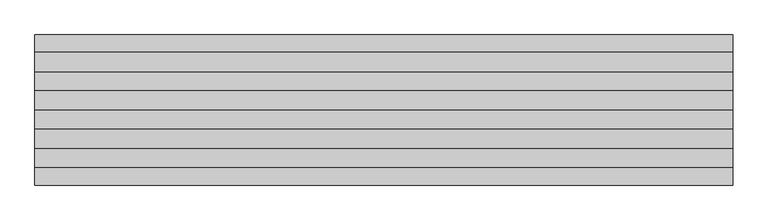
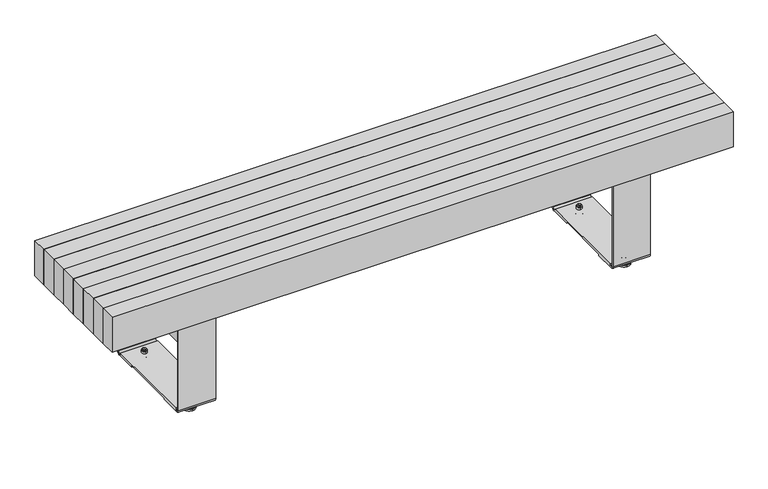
"""IFC4 building model written with IfcOpenShell, lengths in millimetres: furniture geometry, Roros Produkter - Femunden - Bench - 34350 : Roros Produkter - Femunden - Bench - 34350."""

from ifc_helpers import new_model, si_unit, point, frame, frame_2d, origin, place, context, project, spatial, polyline, circle_curve, ellipse_curve, trimmed, segment, composite_curve, outline, extrude, source, transform, mapped, element, save
from ifc_brep_helpers import plane_surface, cylinder_surface, revolved_surface, advanced_brep


def furniture_f9bc95f3(model_context):
    return source(origin(), model_context, "Body", "SolidModel", [
        extrude(outline(composite_curve([segment(trimmed(circle_curve(frame_2d((719.15, 154.0)), 6.0), [point((725.15, 154.0))], [point((719.15, 160.0))], True, "CARTESIAN"), True, "CONTINUOUS"), segment(polyline([(719.15, 160.0), (680.15, 160.0), (680.15, 165.0), (720.15, 165.0)]), True, "CONTINUOUS"), segment(trimmed(circle_curve(frame_2d((720.15, 155.0)), 10.0), [point((720.15, 165.0))], [point((730.15, 155.0))], False, "CARTESIAN"), True, "CONTINUOUS"), segment(polyline([(730.15, 155.0), (730.15, -154.0)]), True, "CONTINUOUS"), segment(trimmed(circle_curve(frame_2d((720.15, -154.0)), 10.0), [point((730.15, -154.0))], [point((720.15, -164.0))], False, "CARTESIAN"), True, "CONTINUOUS"), segment(polyline([(720.15, -164.0), (680.15, -164.0), (680.15, -159.0), (719.15, -159.0)]), True, "CONTINUOUS"), segment(trimmed(circle_curve(frame_2d((719.15, -153.0)), 6.0), [point((719.15, -159.0))], [point((725.15, -153.0))], True, "CARTESIAN"), True, "CONTINUOUS"), segment(polyline([(725.15, -153.0), (725.15, 154.0)]), True, "CONTINUOUS")], self_intersect=False)), frame((0.0, 0.0, 225.6), z_axis=(0.0, 0.0, 1.0), x_axis=(1.0, 0.0, 0.0)), (0.0, 0.0, 1.0), 90.0),
        advanced_brep(
        [(700.0, -119.5, 43.4), (700.0, -129.5, 43.4), (700.0, -133.0, 43.4), (700.0, -116.0, 43.4), (700.0, -119.5, 48.0), (700.0, -129.5, 48.0), (700.0, -124.5, 48.0), (700.0, -104.5, 0.0), (700.0, -144.5, 0.0), (700.0, -124.5, 0.0), (700.0, -104.5, 4.3619998), (700.0, -144.5, 4.3619998), (700.0, -105.4699238, 6.0763344), (700.0, -143.5300761, 6.0763344), (700.0, -112.0, 10.0), (700.0, -137.0, 10.0), (700.0, -115.25, 10.0), (700.0, -133.75, 10.0), (700.0, -115.25, 12.0), (700.0, -133.75, 12.0), (700.0, -117.584004, 12.0), (700.0, -131.415996, 12.0), (700.0, -117.584004, 18.0), (700.0, -131.415996, 18.0), (700.0, -116.0, 18.0), (700.0, -133.0, 18.0), (700.0, -116.0, 25.7), (700.0, -133.0, 25.7), (700.0, -119.5, 25.7), (700.0, -129.5, 25.7), (700.0, -119.5, 35.7), (700.0, -129.5, 35.7), (700.0, -116.0, 35.7), (700.0, -133.0, 35.7)],
        [
            (0, 1, circle_curve(frame((700.0, -124.5, 43.4), z_axis=(0.0, 0.0, -1.0), x_axis=(0.0, -1.0, 0.0)), 5.0)),
            (1, 2),
            (2, 3, circle_curve(frame((700.0, -124.5, 43.4), z_axis=(0.0, 0.0, 1.0), x_axis=(0.0, -1.0, 0.0)), 8.5)),
            (3, 0),
            (1, 0, circle_curve(frame((700.0, -124.5, 43.4), z_axis=(0.0, 0.0, -1.0), x_axis=(0.0, -1.0, 0.0)), 5.0)),
            (3, 2, circle_curve(frame((700.0, -124.5, 43.4), z_axis=(0.0, 0.0, 1.0), x_axis=(0.0, -1.0, 0.0)), 8.5)),
            (4, 5, circle_curve(frame((700.0, -124.5, 48.0), z_axis=(0.0, 0.0, -1.0), x_axis=(0.0, -1.0, 0.0)), 5.0)),
            (5, 1),
            (0, 4),
            (5, 4, circle_curve(frame((700.0, -124.5, 48.0), z_axis=(0.0, 0.0, -1.0), x_axis=(0.0, -1.0, 0.0)), 5.0)),
            (6, 5),
            (4, 6),
            (7, 8, circle_curve(frame((700.0, -124.5, 0.0), z_axis=(0.0, 0.0, -1.0), x_axis=(0.0, -1.0, 0.0)), 20.0)),
            (8, 9),
            (9, 7),
            (8, 7, circle_curve(frame((700.0, -124.5, 0.0), z_axis=(0.0, 0.0, -1.0), x_axis=(0.0, -1.0, 0.0)), 20.0)),
            (10, 11, circle_curve(frame((700.0, -124.5, 4.3619998), z_axis=(0.0, 0.0, -1.0), x_axis=(0.0, -1.0, 0.0)), 20.0)),
            (11, 8),
            (7, 10),
            (11, 10, circle_curve(frame((700.0, -124.5, 4.3619998), z_axis=(0.0, 0.0, -1.0), x_axis=(0.0, -1.0, 0.0)), 20.0)),
            (12, 13, circle_curve(frame((700.0, -124.5, 6.0763344), z_axis=(0.0, 0.0, -1.0), x_axis=(0.0, -1.0, 0.0)), 19.0300761)),
            (13, 11, circle_curve(frame((700.0, -142.5, 4.3619998), z_axis=(1.0, 0.0, 0.0), x_axis=(0.0, 1.0, 0.0)), 2.0)),
            (10, 12, circle_curve(frame((700.0, -106.5, 4.3619998), z_axis=(1.0, 0.0, 0.0), x_axis=(0.0, -1.0, 0.0)), 2.0)),
            (13, 12, circle_curve(frame((700.0, -124.5, 6.0763344), z_axis=(0.0, 0.0, -1.0), x_axis=(0.0, -1.0, 0.0)), 19.0300761)),
            (14, 15, circle_curve(frame((700.0, -124.5, 10.0), z_axis=(0.0, 0.0, -1.0), x_axis=(0.0, -1.0, 0.0)), 12.5)),
            (15, 13),
            (12, 14),
            (15, 14, circle_curve(frame((700.0, -124.5, 10.0), z_axis=(0.0, 0.0, -1.0), x_axis=(0.0, -1.0, 0.0)), 12.5)),
            (16, 17, circle_curve(frame((700.0, -124.5, 10.0), z_axis=(0.0, 0.0, -1.0), x_axis=(0.0, -1.0, 0.0)), 9.25)),
            (17, 15),
            (14, 16),
            (17, 16, circle_curve(frame((700.0, -124.5, 10.0), z_axis=(0.0, 0.0, -1.0), x_axis=(0.0, -1.0, 0.0)), 9.25)),
            (18, 19, circle_curve(frame((700.0, -124.5, 12.0), z_axis=(0.0, 0.0, -1.0), x_axis=(0.0, -1.0, 0.0)), 9.25)),
            (19, 17),
            (16, 18),
            (19, 18, circle_curve(frame((700.0, -124.5, 12.0), z_axis=(0.0, 0.0, -1.0), x_axis=(0.0, -1.0, 0.0)), 9.25)),
            (20, 21, circle_curve(frame((700.0, -124.5, 12.0), z_axis=(0.0, 0.0, -1.0), x_axis=(0.0, -1.0, 0.0)), 6.915996)),
            (21, 19),
            (18, 20),
            (21, 20, circle_curve(frame((700.0, -124.5, 12.0), z_axis=(0.0, 0.0, -1.0), x_axis=(0.0, -1.0, 0.0)), 6.915996)),
            (22, 23, circle_curve(frame((700.0, -124.5, 18.0), z_axis=(0.0, 0.0, -1.0), x_axis=(0.0, -1.0, 0.0)), 6.915996)),
            (23, 21),
            (20, 22),
            (23, 22, circle_curve(frame((700.0, -124.5, 18.0), z_axis=(0.0, 0.0, -1.0), x_axis=(0.0, -1.0, 0.0)), 6.915996)),
            (24, 25, circle_curve(frame((700.0, -124.5, 18.0), z_axis=(0.0, 0.0, -1.0), x_axis=(0.0, -1.0, 0.0)), 8.5)),
            (25, 23),
            (22, 24),
            (25, 24, circle_curve(frame((700.0, -124.5, 18.0), z_axis=(0.0, 0.0, -1.0), x_axis=(0.0, -1.0, 0.0)), 8.5)),
            (26, 27, circle_curve(frame((700.0, -124.5, 25.7), z_axis=(0.0, 0.0, -1.0), x_axis=(0.0, -1.0, 0.0)), 8.5)),
            (27, 25),
            (24, 26),
            (27, 26, circle_curve(frame((700.0, -124.5, 25.7), z_axis=(0.0, 0.0, -1.0), x_axis=(0.0, -1.0, 0.0)), 8.5)),
            (28, 29, circle_curve(frame((700.0, -124.5, 25.7), z_axis=(0.0, 0.0, -1.0), x_axis=(0.0, -1.0, 0.0)), 5.0)),
            (29, 27),
            (26, 28),
            (29, 28, circle_curve(frame((700.0, -124.5, 25.7), z_axis=(0.0, 0.0, -1.0), x_axis=(0.0, -1.0, 0.0)), 5.0)),
            (30, 31, circle_curve(frame((700.0, -124.5, 35.7), z_axis=(0.0, 0.0, -1.0), x_axis=(0.0, -1.0, 0.0)), 5.0)),
            (31, 29),
            (28, 30),
            (31, 30, circle_curve(frame((700.0, -124.5, 35.7), z_axis=(0.0, 0.0, -1.0), x_axis=(0.0, -1.0, 0.0)), 5.0)),
            (32, 33, circle_curve(frame((700.0, -124.5, 35.7), z_axis=(0.0, 0.0, -1.0), x_axis=(0.0, -1.0, 0.0)), 8.5)),
            (33, 31),
            (30, 32),
            (33, 32, circle_curve(frame((700.0, -124.5, 35.7), z_axis=(0.0, 0.0, -1.0), x_axis=(0.0, -1.0, 0.0)), 8.5)),
            (2, 33),
            (32, 3),
        ],
        [
            plane_surface(frame((700.0, -124.5, 43.4), z_axis=(0.0, 0.0, 1.0), x_axis=(0.0, -1.0, 0.0))),
            cylinder_surface(frame((700.0, -124.5, 48.0), z_axis=(0.0, 0.0, 1.0), x_axis=(0.0, -1.0, 0.0)), 5.0),
            plane_surface(frame((700.0, -124.5, 48.0), z_axis=(0.0, 0.0, 1.0), x_axis=(0.0, -1.0, 0.0))),
            plane_surface(frame((700.0, -124.5, 0.0), z_axis=(0.0, 0.0, -1.0), x_axis=(0.0, -1.0, 0.0))),
            cylinder_surface(frame((700.0, -124.5, 48.0), z_axis=(0.0, 0.0, 1.0), x_axis=(0.0, -1.0, 0.0)), 20.0),
            revolved_surface(trimmed(ellipse_curve(frame((700.0, -142.5, 4.3619998), z_axis=(-1.0, 0.0, 0.0), x_axis=(0.0, 1.0, 0.0)), 2.0, 2.0), [point((700.0, -144.5, 4.3619998))], [point((700.0, -143.5300761, 6.0763344))], True, "CARTESIAN"), (700.0, -124.5, 48.0), (0.0, 0.0, 1.0)),
            revolved_surface(polyline([(700.0, -143.5300761, 6.0763344), (700.0, -137.0, 10.0)]), (700.0, -124.5, 48.0), (0.0, 0.0, 1.0)),
            plane_surface(frame((700.0, -124.5, 10.0), z_axis=(0.0, 0.0, 1.0), x_axis=(0.0, -1.0, 0.0))),
            cylinder_surface(frame((700.0, -124.5, 48.0), z_axis=(0.0, 0.0, 1.0), x_axis=(0.0, -1.0, 0.0)), 9.25),
            plane_surface(frame((700.0, -124.5, 12.0), z_axis=(0.0, 0.0, 1.0), x_axis=(0.0, -1.0, 0.0))),
            cylinder_surface(frame((700.0, -124.5, 48.0), z_axis=(0.0, 0.0, 1.0), x_axis=(0.0, -1.0, 0.0)), 6.915996),
            plane_surface(frame((700.0, -124.5, 18.0), z_axis=(0.0, 0.0, -1.0), x_axis=(0.0, -1.0, 0.0))),
            cylinder_surface(frame((700.0, -124.5, 48.0), z_axis=(0.0, 0.0, 1.0), x_axis=(0.0, -1.0, 0.0)), 8.5),
            plane_surface(frame((700.0, -124.5, 25.7), z_axis=(0.0, 0.0, 1.0), x_axis=(0.0, -1.0, 0.0))),
            plane_surface(frame((700.0, -124.5, 35.7), z_axis=(0.0, 0.0, -1.0), x_axis=(0.0, -1.0, 0.0))),
        ],
        [
            (0, [[1, 2, 3, 4]]),
            (0, [[5, -4, 6, -2]]),
            (1, [[7, 8, -1, 9]]),
            (1, [[10, -9, -5, -8]]),
            (2, [[11, -7, 12]]),
            (2, [[-12, -10, -11]]),
            (3, [[13, 14, 15]]),
            (3, [[16, -15, -14]]),
            (4, [[17, 18, -13, 19]]),
            (4, [[20, -19, -16, -18]]),
            (5, [[21, 22, -17, 23]]),
            (5, [[24, -23, -20, -22]]),
            (6, [[25, 26, -21, 27]]),
            (6, [[28, -27, -24, -26]]),
            (7, [[29, 30, -25, 31]]),
            (7, [[32, -31, -28, -30]]),
            (8, [[33, 34, -29, 35]]),
            (8, [[36, -35, -32, -34]]),
            (9, [[37, 38, -33, 39]]),
            (9, [[40, -39, -36, -38]]),
            (10, [[41, 42, -37, 43]]),
            (10, [[44, -43, -40, -42]]),
            (11, [[45, 46, -41, 47]]),
            (11, [[48, -47, -44, -46]]),
            (12, [[49, 50, -45, 51]]),
            (12, [[52, -51, -48, -50]]),
            (13, [[53, 54, -49, 55]]),
            (13, [[56, -55, -52, -54]]),
            (1, [[57, 58, -53, 59]]),
            (1, [[60, -59, -56, -58]]),
            (14, [[61, 62, -57, 63]]),
            (14, [[64, -63, -60, -62]]),
            (12, [[-3, 65, -61, 66]]),
            (12, [[-6, -66, -64, -65]]),
        ],
    ),
        advanced_brep(
        [(700.0, 116.0, 43.4), (700.0, 133.0, 43.4), (700.0, 129.5, 43.4), (700.0, 119.5, 43.4), (700.0, 129.5, 48.0), (700.0, 119.5, 48.0), (700.0, 124.5, 48.0), (700.0, 124.5, 0.0), (700.0, 144.5, 0.0), (700.0, 104.5, 0.0), (700.0, 144.5, 4.3619998), (700.0, 104.5, 4.3619998), (700.0, 143.5300761, 6.0763344), (700.0, 105.4699238, 6.0763344), (700.0, 137.0, 10.0), (700.0, 112.0, 10.0), (700.0, 133.75, 10.0), (700.0, 115.25, 10.0), (700.0, 133.75, 12.0), (700.0, 115.25, 12.0), (700.0, 131.415996, 12.0), (700.0, 117.584004, 12.0), (700.0, 131.415996, 18.0), (700.0, 117.584004, 18.0), (700.0, 133.0, 18.0), (700.0, 116.0, 18.0), (700.0, 133.0, 25.7), (700.0, 116.0, 25.7), (700.0, 129.5, 25.7), (700.0, 119.5, 25.7), (700.0, 129.5, 35.7), (700.0, 119.5, 35.7), (700.0, 133.0, 35.7), (700.0, 116.0, 35.7)],
        [
            (0, 1, circle_curve(frame((700.0, 124.5, 43.4), z_axis=(0.0, 0.0, 1.0), x_axis=(0.0, 1.0, 0.0)), 8.5)),
            (1, 2),
            (2, 3, circle_curve(frame((700.0, 124.5, 43.4), z_axis=(0.0, 0.0, -1.0), x_axis=(0.0, 1.0, 0.0)), 5.0)),
            (3, 0),
            (1, 0, circle_curve(frame((700.0, 124.5, 43.4), z_axis=(0.0, 0.0, 1.0), x_axis=(0.0, 1.0, 0.0)), 8.5)),
            (3, 2, circle_curve(frame((700.0, 124.5, 43.4), z_axis=(0.0, 0.0, -1.0), x_axis=(0.0, 1.0, 0.0)), 5.0)),
            (2, 4),
            (4, 5, circle_curve(frame((700.0, 124.5, 48.0), z_axis=(0.0, 0.0, -1.0), x_axis=(0.0, 1.0, 0.0)), 5.0)),
            (5, 3),
            (5, 4, circle_curve(frame((700.0, 124.5, 48.0), z_axis=(0.0, 0.0, -1.0), x_axis=(0.0, 1.0, 0.0)), 5.0)),
            (4, 6),
            (6, 5),
            (7, 8),
            (8, 9, circle_curve(frame((700.0, 124.5, 0.0), z_axis=(0.0, 0.0, -1.0), x_axis=(0.0, 1.0, 0.0)), 20.0)),
            (9, 7),
            (9, 8, circle_curve(frame((700.0, 124.5, 0.0), z_axis=(0.0, 0.0, -1.0), x_axis=(0.0, 1.0, 0.0)), 20.0)),
            (8, 10),
            (10, 11, circle_curve(frame((700.0, 124.5, 4.3619998), z_axis=(0.0, 0.0, -1.0), x_axis=(0.0, 1.0, 0.0)), 20.0)),
            (11, 9),
            (11, 10, circle_curve(frame((700.0, 124.5, 4.3619998), z_axis=(0.0, 0.0, -1.0), x_axis=(0.0, 1.0, 0.0)), 20.0)),
            (10, 12, circle_curve(frame((700.0, 142.5, 4.3619998), z_axis=(1.0, 0.0, 0.0), x_axis=(0.0, -1.0, 0.0)), 2.0)),
            (12, 13, circle_curve(frame((700.0, 124.5, 6.0763344), z_axis=(0.0, 0.0, -1.0), x_axis=(0.0, 1.0, 0.0)), 19.0300761)),
            (13, 11, circle_curve(frame((700.0, 106.5, 4.3619998), z_axis=(1.0, 0.0, 0.0), x_axis=(0.0, 1.0, 0.0)), 2.0)),
            (13, 12, circle_curve(frame((700.0, 124.5, 6.0763344), z_axis=(0.0, 0.0, -1.0), x_axis=(0.0, 1.0, 0.0)), 19.0300761)),
            (12, 14),
            (14, 15, circle_curve(frame((700.0, 124.5, 10.0), z_axis=(0.0, 0.0, -1.0), x_axis=(0.0, 1.0, 0.0)), 12.5)),
            (15, 13),
            (15, 14, circle_curve(frame((700.0, 124.5, 10.0), z_axis=(0.0, 0.0, -1.0), x_axis=(0.0, 1.0, 0.0)), 12.5)),
            (14, 16),
            (16, 17, circle_curve(frame((700.0, 124.5, 10.0), z_axis=(0.0, 0.0, -1.0), x_axis=(0.0, 1.0, 0.0)), 9.25)),
            (17, 15),
            (17, 16, circle_curve(frame((700.0, 124.5, 10.0), z_axis=(0.0, 0.0, -1.0), x_axis=(0.0, 1.0, 0.0)), 9.25)),
            (16, 18),
            (18, 19, circle_curve(frame((700.0, 124.5, 12.0), z_axis=(0.0, 0.0, -1.0), x_axis=(0.0, 1.0, 0.0)), 9.25)),
            (19, 17),
            (19, 18, circle_curve(frame((700.0, 124.5, 12.0), z_axis=(0.0, 0.0, -1.0), x_axis=(0.0, 1.0, 0.0)), 9.25)),
            (18, 20),
            (20, 21, circle_curve(frame((700.0, 124.5, 12.0), z_axis=(0.0, 0.0, -1.0), x_axis=(0.0, 1.0, 0.0)), 6.915996)),
            (21, 19),
            (21, 20, circle_curve(frame((700.0, 124.5, 12.0), z_axis=(0.0, 0.0, -1.0), x_axis=(0.0, 1.0, 0.0)), 6.915996)),
            (20, 22),
            (22, 23, circle_curve(frame((700.0, 124.5, 18.0), z_axis=(0.0, 0.0, -1.0), x_axis=(0.0, 1.0, 0.0)), 6.915996)),
            (23, 21),
            (23, 22, circle_curve(frame((700.0, 124.5, 18.0), z_axis=(0.0, 0.0, -1.0), x_axis=(0.0, 1.0, 0.0)), 6.915996)),
            (22, 24),
            (24, 25, circle_curve(frame((700.0, 124.5, 18.0), z_axis=(0.0, 0.0, -1.0), x_axis=(0.0, 1.0, 0.0)), 8.5)),
            (25, 23),
            (25, 24, circle_curve(frame((700.0, 124.5, 18.0), z_axis=(0.0, 0.0, -1.0), x_axis=(0.0, 1.0, 0.0)), 8.5)),
            (24, 26),
            (26, 27, circle_curve(frame((700.0, 124.5, 25.7), z_axis=(0.0, 0.0, -1.0), x_axis=(0.0, 1.0, 0.0)), 8.5)),
            (27, 25),
            (27, 26, circle_curve(frame((700.0, 124.5, 25.7), z_axis=(0.0, 0.0, -1.0), x_axis=(0.0, 1.0, 0.0)), 8.5)),
            (26, 28),
            (28, 29, circle_curve(frame((700.0, 124.5, 25.7), z_axis=(0.0, 0.0, -1.0), x_axis=(0.0, 1.0, 0.0)), 5.0)),
            (29, 27),
            (29, 28, circle_curve(frame((700.0, 124.5, 25.7), z_axis=(0.0, 0.0, -1.0), x_axis=(0.0, 1.0, 0.0)), 5.0)),
            (28, 30),
            (30, 31, circle_curve(frame((700.0, 124.5, 35.7), z_axis=(0.0, 0.0, -1.0), x_axis=(0.0, 1.0, 0.0)), 5.0)),
            (31, 29),
            (31, 30, circle_curve(frame((700.0, 124.5, 35.7), z_axis=(0.0, 0.0, -1.0), x_axis=(0.0, 1.0, 0.0)), 5.0)),
            (30, 32),
            (32, 33, circle_curve(frame((700.0, 124.5, 35.7), z_axis=(0.0, 0.0, -1.0), x_axis=(0.0, 1.0, 0.0)), 8.5)),
            (33, 31),
            (33, 32, circle_curve(frame((700.0, 124.5, 35.7), z_axis=(0.0, 0.0, -1.0), x_axis=(0.0, 1.0, 0.0)), 8.5)),
            (32, 1),
            (0, 33),
        ],
        [
            plane_surface(frame((700.0, 124.5, 43.4), z_axis=(0.0, 0.0, 1.0), x_axis=(0.0, 1.0, 0.0))),
            cylinder_surface(frame((700.0, 124.5, 48.0), z_axis=(0.0, 0.0, -1.0), x_axis=(0.0, 1.0, 0.0)), 5.0),
            plane_surface(frame((700.0, 124.5, 48.0), z_axis=(0.0, 0.0, 1.0), x_axis=(0.0, 1.0, 0.0))),
            plane_surface(frame((700.0, 124.5, 0.0), z_axis=(0.0, 0.0, -1.0), x_axis=(0.0, 1.0, 0.0))),
            cylinder_surface(frame((700.0, 124.5, 48.0), z_axis=(0.0, 0.0, -1.0), x_axis=(0.0, 1.0, 0.0)), 20.0),
            revolved_surface(trimmed(ellipse_curve(frame((700.0, 142.5, 4.3619998), z_axis=(-1.0, 0.0, 0.0), x_axis=(0.0, -1.0, 0.0)), 2.0, 2.0), [point((700.0, 143.5300761, 6.0763344))], [point((700.0, 144.5, 4.3619998))], True, "CARTESIAN"), (700.0, 124.5, 48.0), (0.0, 0.0, -1.0)),
            revolved_surface(polyline([(700.0, 137.0, 10.0), (700.0, 143.5300761, 6.0763344)]), (700.0, 124.5, 48.0), (0.0, 0.0, -1.0)),
            plane_surface(frame((700.0, 124.5, 10.0), z_axis=(0.0, 0.0, 1.0), x_axis=(0.0, 1.0, 0.0))),
            cylinder_surface(frame((700.0, 124.5, 48.0), z_axis=(0.0, 0.0, -1.0), x_axis=(0.0, 1.0, 0.0)), 9.25),
            plane_surface(frame((700.0, 124.5, 12.0), z_axis=(0.0, 0.0, 1.0), x_axis=(0.0, 1.0, 0.0))),
            cylinder_surface(frame((700.0, 124.5, 48.0), z_axis=(0.0, 0.0, -1.0), x_axis=(0.0, 1.0, 0.0)), 6.915996),
            plane_surface(frame((700.0, 124.5, 18.0), z_axis=(0.0, 0.0, -1.0), x_axis=(0.0, 1.0, 0.0))),
            cylinder_surface(frame((700.0, 124.5, 48.0), z_axis=(0.0, 0.0, -1.0), x_axis=(0.0, 1.0, 0.0)), 8.5),
            plane_surface(frame((700.0, 124.5, 25.7), z_axis=(0.0, 0.0, 1.0), x_axis=(0.0, 1.0, 0.0))),
            plane_surface(frame((700.0, 124.5, 35.7), z_axis=(0.0, 0.0, -1.0), x_axis=(0.0, 1.0, 0.0))),
        ],
        [
            (0, [[1, 2, 3, 4]]),
            (0, [[5, -4, 6, -2]]),
            (1, [[-3, 7, 8, 9]]),
            (1, [[-6, -9, 10, -7]]),
            (2, [[-8, 11, 12]]),
            (2, [[-10, -12, -11]]),
            (3, [[13, 14, 15]]),
            (3, [[-15, 16, -13]]),
            (4, [[-14, 17, 18, 19]]),
            (4, [[-16, -19, 20, -17]]),
            (5, [[-18, 21, 22, 23]]),
            (5, [[-20, -23, 24, -21]]),
            (6, [[-22, 25, 26, 27]]),
            (6, [[-24, -27, 28, -25]]),
            (7, [[-26, 29, 30, 31]]),
            (7, [[-28, -31, 32, -29]]),
            (8, [[-30, 33, 34, 35]]),
            (8, [[-32, -35, 36, -33]]),
            (9, [[-34, 37, 38, 39]]),
            (9, [[-36, -39, 40, -37]]),
            (10, [[-38, 41, 42, 43]]),
            (10, [[-40, -43, 44, -41]]),
            (11, [[-42, 45, 46, 47]]),
            (11, [[-44, -47, 48, -45]]),
            (12, [[-46, 49, 50, 51]]),
            (12, [[-48, -51, 52, -49]]),
            (13, [[-50, 53, 54, 55]]),
            (13, [[-52, -55, 56, -53]]),
            (1, [[-54, 57, 58, 59]]),
            (1, [[-56, -59, 60, -57]]),
            (14, [[-58, 61, 62, 63]]),
            (14, [[-60, -63, 64, -61]]),
            (12, [[-62, 65, -1, 66]]),
            (12, [[-64, -66, -5, -65]]),
        ],
    ),
        extrude(outline(composite_curve([segment(polyline([(165.0, 441.7), (170.0, 441.7), (170.0, 35.7)]), True, "CONTINUOUS"), segment(trimmed(circle_curve(frame_2d((160.0, 35.7)), 10.0), [point((170.0, 35.7))], [point((160.0, 25.7))], False, "CARTESIAN"), True, "CONTINUOUS"), segment(polyline([(160.0, 25.7), (90.0, 25.7), (90.0, 30.7), (-90.0, 30.7), (-90.0, 25.7), (-160.0, 25.7)]), True, "CONTINUOUS"), segment(trimmed(circle_curve(frame_2d((-160.0, 35.7)), 10.0), [point((-160.0, 25.7))], [point((-170.0, 35.7))], False, "CARTESIAN"), True, "CONTINUOUS"), segment(polyline([(-170.0, 35.7), (-170.0, 441.7), (-165.0, 441.7), (-165.0, 36.7)]), True, "CONTINUOUS"), segment(trimmed(circle_curve(frame_2d((-159.0, 36.7)), 6.0), [point((-165.0, 36.7))], [point((-159.0, 30.7))], True, "CARTESIAN"), True, "CONTINUOUS"), segment(polyline([(-159.0, 30.7), (-154.0, 30.7), (-154.0, 35.7), (154.0, 35.7), (154.0, 30.7), (159.0, 30.7)]), True, "CONTINUOUS"), segment(trimmed(circle_curve(frame_2d((159.0, 36.7)), 6.0), [point((159.0, 30.7))], [point((165.0, 36.7))], True, "CARTESIAN"), True, "CONTINUOUS"), segment(polyline([(165.0, 36.7), (165.0, 441.7)]), True, "CONTINUOUS")], self_intersect=False)), frame((640.0, 0.0, 0.0), z_axis=(1.0, 0.0, 0.0), x_axis=(0.0, 1.0, 0.0)), (0.0, 0.0, 1.0), 120.0),
        extrude(outline(composite_curve([segment(polyline([(-725.15, 154.0), (-725.15, -153.0)]), True, "CONTINUOUS"), segment(trimmed(circle_curve(frame_2d((-719.15, -153.0)), 6.0), [point((-725.15, -153.0))], [point((-719.15, -159.0))], True, "CARTESIAN"), True, "CONTINUOUS"), segment(polyline([(-719.15, -159.0), (-680.15, -159.0), (-680.15, -164.0), (-720.15, -164.0)]), True, "CONTINUOUS"), segment(trimmed(circle_curve(frame_2d((-720.15, -154.0)), 10.0), [point((-720.15, -164.0))], [point((-730.15, -154.0))], False, "CARTESIAN"), True, "CONTINUOUS"), segment(polyline([(-730.15, -154.0), (-730.15, 155.0)]), True, "CONTINUOUS"), segment(trimmed(circle_curve(frame_2d((-720.15, 155.0)), 10.0), [point((-730.15, 155.0))], [point((-720.15, 165.0))], False, "CARTESIAN"), True, "CONTINUOUS"), segment(polyline([(-720.15, 165.0), (-680.15, 165.0), (-680.15, 160.0), (-719.15, 160.0)]), True, "CONTINUOUS"), segment(trimmed(circle_curve(frame_2d((-719.15, 154.0)), 6.0), [point((-719.15, 160.0))], [point((-725.15, 154.0))], True, "CARTESIAN"), True, "CONTINUOUS")], self_intersect=False)), frame((0.0, 0.0, 225.6), z_axis=(0.0, 0.0, 1.0), x_axis=(1.0, 0.0, 0.0)), (0.0, 0.0, 1.0), 90.0),
        advanced_brep(
        [(-700.0, -116.0, 43.4), (-700.0, -133.0, 43.4), (-700.0, -129.5, 43.4), (-700.0, -119.5, 43.4), (-700.0, -129.5, 48.0), (-700.0, -119.5, 48.0), (-700.0, -124.5, 48.0), (-700.0, -124.5, 0.0), (-700.0, -144.5, 0.0), (-700.0, -104.5, 0.0), (-700.0, -144.5, 4.3619998), (-700.0, -104.5, 4.3619998), (-700.0, -143.5300761, 6.0763344), (-700.0, -105.4699238, 6.0763344), (-700.0, -137.0, 10.0), (-700.0, -112.0, 10.0), (-700.0, -133.75, 10.0), (-700.0, -115.25, 10.0), (-700.0, -133.75, 12.0), (-700.0, -115.25, 12.0), (-700.0, -131.415996, 12.0), (-700.0, -117.584004, 12.0), (-700.0, -131.415996, 18.0), (-700.0, -117.584004, 18.0), (-700.0, -133.0, 18.0), (-700.0, -116.0, 18.0), (-700.0, -133.0, 25.7), (-700.0, -116.0, 25.7), (-700.0, -129.5, 25.7), (-700.0, -119.5, 25.7), (-700.0, -129.5, 35.7), (-700.0, -119.5, 35.7), (-700.0, -133.0, 35.7), (-700.0, -116.0, 35.7)],
        [
            (0, 1, circle_curve(frame((-700.0, -124.5, 43.4), z_axis=(0.0, 0.0, 1.0), x_axis=(0.0, -1.0, 0.0)), 8.5)),
            (1, 2),
            (2, 3, circle_curve(frame((-700.0, -124.5, 43.4), z_axis=(0.0, 0.0, -1.0), x_axis=(0.0, -1.0, 0.0)), 5.0)),
            (3, 0),
            (1, 0, circle_curve(frame((-700.0, -124.5, 43.4), z_axis=(0.0, 0.0, 1.0), x_axis=(0.0, -1.0, 0.0)), 8.5)),
            (3, 2, circle_curve(frame((-700.0, -124.5, 43.4), z_axis=(0.0, 0.0, -1.0), x_axis=(0.0, -1.0, 0.0)), 5.0)),
            (2, 4),
            (4, 5, circle_curve(frame((-700.0, -124.5, 48.0), z_axis=(0.0, 0.0, -1.0), x_axis=(0.0, -1.0, 0.0)), 5.0)),
            (5, 3),
            (5, 4, circle_curve(frame((-700.0, -124.5, 48.0), z_axis=(0.0, 0.0, -1.0), x_axis=(0.0, -1.0, 0.0)), 5.0)),
            (4, 6),
            (6, 5),
            (7, 8),
            (8, 9, circle_curve(frame((-700.0, -124.5, 0.0), z_axis=(0.0, 0.0, -1.0), x_axis=(0.0, -1.0, 0.0)), 20.0)),
            (9, 7),
            (9, 8, circle_curve(frame((-700.0, -124.5, 0.0), z_axis=(0.0, 0.0, -1.0), x_axis=(0.0, -1.0, 0.0)), 20.0)),
            (8, 10),
            (10, 11, circle_curve(frame((-700.0, -124.5, 4.3619998), z_axis=(0.0, 0.0, -1.0), x_axis=(0.0, -1.0, 0.0)), 20.0)),
            (11, 9),
            (11, 10, circle_curve(frame((-700.0, -124.5, 4.3619998), z_axis=(0.0, 0.0, -1.0), x_axis=(0.0, -1.0, 0.0)), 20.0)),
            (10, 12, circle_curve(frame((-700.0, -142.5, 4.3619998), z_axis=(-1.0, 0.0, 0.0), x_axis=(0.0, 1.0, 0.0)), 2.0)),
            (12, 13, circle_curve(frame((-700.0, -124.5, 6.0763344), z_axis=(0.0, 0.0, -1.0), x_axis=(0.0, -1.0, 0.0)), 19.0300761)),
            (13, 11, circle_curve(frame((-700.0, -106.5, 4.3619998), z_axis=(-1.0, 0.0, 0.0), x_axis=(0.0, -1.0, 0.0)), 2.0)),
            (13, 12, circle_curve(frame((-700.0, -124.5, 6.0763344), z_axis=(0.0, 0.0, -1.0), x_axis=(0.0, -1.0, 0.0)), 19.0300761)),
            (12, 14),
            (14, 15, circle_curve(frame((-700.0, -124.5, 10.0), z_axis=(0.0, 0.0, -1.0), x_axis=(0.0, -1.0, 0.0)), 12.5)),
            (15, 13),
            (15, 14, circle_curve(frame((-700.0, -124.5, 10.0), z_axis=(0.0, 0.0, -1.0), x_axis=(0.0, -1.0, 0.0)), 12.5)),
            (14, 16),
            (16, 17, circle_curve(frame((-700.0, -124.5, 10.0), z_axis=(0.0, 0.0, -1.0), x_axis=(0.0, -1.0, 0.0)), 9.25)),
            (17, 15),
            (17, 16, circle_curve(frame((-700.0, -124.5, 10.0), z_axis=(0.0, 0.0, -1.0), x_axis=(0.0, -1.0, 0.0)), 9.25)),
            (16, 18),
            (18, 19, circle_curve(frame((-700.0, -124.5, 12.0), z_axis=(0.0, 0.0, -1.0), x_axis=(0.0, -1.0, 0.0)), 9.25)),
            (19, 17),
            (19, 18, circle_curve(frame((-700.0, -124.5, 12.0), z_axis=(0.0, 0.0, -1.0), x_axis=(0.0, -1.0, 0.0)), 9.25)),
            (18, 20),
            (20, 21, circle_curve(frame((-700.0, -124.5, 12.0), z_axis=(0.0, 0.0, -1.0), x_axis=(0.0, -1.0, 0.0)), 6.915996)),
            (21, 19),
            (21, 20, circle_curve(frame((-700.0, -124.5, 12.0), z_axis=(0.0, 0.0, -1.0), x_axis=(0.0, -1.0, 0.0)), 6.915996)),
            (20, 22),
            (22, 23, circle_curve(frame((-700.0, -124.5, 18.0), z_axis=(0.0, 0.0, -1.0), x_axis=(0.0, -1.0, 0.0)), 6.915996)),
            (23, 21),
            (23, 22, circle_curve(frame((-700.0, -124.5, 18.0), z_axis=(0.0, 0.0, -1.0), x_axis=(0.0, -1.0, 0.0)), 6.915996)),
            (22, 24),
            (24, 25, circle_curve(frame((-700.0, -124.5, 18.0), z_axis=(0.0, 0.0, -1.0), x_axis=(0.0, -1.0, 0.0)), 8.5)),
            (25, 23),
            (25, 24, circle_curve(frame((-700.0, -124.5, 18.0), z_axis=(0.0, 0.0, -1.0), x_axis=(0.0, -1.0, 0.0)), 8.5)),
            (24, 26),
            (26, 27, circle_curve(frame((-700.0, -124.5, 25.7), z_axis=(0.0, 0.0, -1.0), x_axis=(0.0, -1.0, 0.0)), 8.5)),
            (27, 25),
            (27, 26, circle_curve(frame((-700.0, -124.5, 25.7), z_axis=(0.0, 0.0, -1.0), x_axis=(0.0, -1.0, 0.0)), 8.5)),
            (26, 28),
            (28, 29, circle_curve(frame((-700.0, -124.5, 25.7), z_axis=(0.0, 0.0, -1.0), x_axis=(0.0, -1.0, 0.0)), 5.0)),
            (29, 27),
            (29, 28, circle_curve(frame((-700.0, -124.5, 25.7), z_axis=(0.0, 0.0, -1.0), x_axis=(0.0, -1.0, 0.0)), 5.0)),
            (28, 30),
            (30, 31, circle_curve(frame((-700.0, -124.5, 35.7), z_axis=(0.0, 0.0, -1.0), x_axis=(0.0, -1.0, 0.0)), 5.0)),
            (31, 29),
            (31, 30, circle_curve(frame((-700.0, -124.5, 35.7), z_axis=(0.0, 0.0, -1.0), x_axis=(0.0, -1.0, 0.0)), 5.0)),
            (30, 32),
            (32, 33, circle_curve(frame((-700.0, -124.5, 35.7), z_axis=(0.0, 0.0, -1.0), x_axis=(0.0, -1.0, 0.0)), 8.5)),
            (33, 31),
            (33, 32, circle_curve(frame((-700.0, -124.5, 35.7), z_axis=(0.0, 0.0, -1.0), x_axis=(0.0, -1.0, 0.0)), 8.5)),
            (32, 1),
            (0, 33),
        ],
        [
            plane_surface(frame((-700.0, -124.5, 43.4), z_axis=(0.0, 0.0, 1.0), x_axis=(0.0, -1.0, 0.0))),
            cylinder_surface(frame((-700.0, -124.5, 48.0), z_axis=(0.0, 0.0, -1.0), x_axis=(0.0, -1.0, 0.0)), 5.0),
            plane_surface(frame((-700.0, -124.5, 48.0), z_axis=(0.0, 0.0, 1.0), x_axis=(0.0, -1.0, 0.0))),
            plane_surface(frame((-700.0, -124.5, 0.0), z_axis=(0.0, 0.0, -1.0), x_axis=(0.0, -1.0, 0.0))),
            cylinder_surface(frame((-700.0, -124.5, 48.0), z_axis=(0.0, 0.0, -1.0), x_axis=(0.0, -1.0, 0.0)), 20.0),
            revolved_surface(trimmed(ellipse_curve(frame((-700.0, -142.5, 4.3619998), z_axis=(1.0, 0.0, 0.0), x_axis=(0.0, 1.0, 0.0)), 2.0, 2.0), [point((-700.0, -143.5300761, 6.0763344))], [point((-700.0, -144.5, 4.3619998))], True, "CARTESIAN"), (-700.0, -124.5, 48.0), (0.0, 0.0, -1.0)),
            revolved_surface(polyline([(-700.0, -137.0, 10.0), (-700.0, -143.5300761, 6.0763344)]), (-700.0, -124.5, 48.0), (0.0, 0.0, -1.0)),
            plane_surface(frame((-700.0, -124.5, 10.0), z_axis=(0.0, 0.0, 1.0), x_axis=(0.0, -1.0, 0.0))),
            cylinder_surface(frame((-700.0, -124.5, 48.0), z_axis=(0.0, 0.0, -1.0), x_axis=(0.0, -1.0, 0.0)), 9.25),
            plane_surface(frame((-700.0, -124.5, 12.0), z_axis=(0.0, 0.0, 1.0), x_axis=(0.0, -1.0, 0.0))),
            cylinder_surface(frame((-700.0, -124.5, 48.0), z_axis=(0.0, 0.0, -1.0), x_axis=(0.0, -1.0, 0.0)), 6.915996),
            plane_surface(frame((-700.0, -124.5, 18.0), z_axis=(0.0, 0.0, -1.0), x_axis=(0.0, -1.0, 0.0))),
            cylinder_surface(frame((-700.0, -124.5, 48.0), z_axis=(0.0, 0.0, -1.0), x_axis=(0.0, -1.0, 0.0)), 8.5),
            plane_surface(frame((-700.0, -124.5, 25.7), z_axis=(0.0, 0.0, 1.0), x_axis=(0.0, -1.0, 0.0))),
            plane_surface(frame((-700.0, -124.5, 35.7), z_axis=(0.0, 0.0, -1.0), x_axis=(0.0, -1.0, 0.0))),
        ],
        [
            (0, [[1, 2, 3, 4]]),
            (0, [[5, -4, 6, -2]]),
            (1, [[-3, 7, 8, 9]]),
            (1, [[-6, -9, 10, -7]]),
            (2, [[-8, 11, 12]]),
            (2, [[-10, -12, -11]]),
            (3, [[13, 14, 15]]),
            (3, [[-15, 16, -13]]),
            (4, [[-14, 17, 18, 19]]),
            (4, [[-16, -19, 20, -17]]),
            (5, [[-18, 21, 22, 23]]),
            (5, [[-20, -23, 24, -21]]),
            (6, [[-22, 25, 26, 27]]),
            (6, [[-24, -27, 28, -25]]),
            (7, [[-26, 29, 30, 31]]),
            (7, [[-28, -31, 32, -29]]),
            (8, [[-30, 33, 34, 35]]),
            (8, [[-32, -35, 36, -33]]),
            (9, [[-34, 37, 38, 39]]),
            (9, [[-36, -39, 40, -37]]),
            (10, [[-38, 41, 42, 43]]),
            (10, [[-40, -43, 44, -41]]),
            (11, [[-42, 45, 46, 47]]),
            (11, [[-44, -47, 48, -45]]),
            (12, [[-46, 49, 50, 51]]),
            (12, [[-48, -51, 52, -49]]),
            (13, [[-50, 53, 54, 55]]),
            (13, [[-52, -55, 56, -53]]),
            (1, [[-54, 57, 58, 59]]),
            (1, [[-56, -59, 60, -57]]),
            (14, [[-58, 61, 62, 63]]),
            (14, [[-60, -63, 64, -61]]),
            (12, [[-62, 65, -1, 66]]),
            (12, [[-64, -66, -5, -65]]),
        ],
    ),
        advanced_brep(
        [(-700.0, 119.5, 43.4), (-700.0, 129.5, 43.4), (-700.0, 133.0, 43.4), (-700.0, 116.0, 43.4), (-700.0, 119.5, 48.0), (-700.0, 129.5, 48.0), (-700.0, 124.5, 48.0), (-700.0, 104.5, 0.0), (-700.0, 144.5, 0.0), (-700.0, 124.5, 0.0), (-700.0, 104.5, 4.3619998), (-700.0, 144.5, 4.3619998), (-700.0, 105.4699238, 6.0763344), (-700.0, 143.5300761, 6.0763344), (-700.0, 112.0, 10.0), (-700.0, 137.0, 10.0), (-700.0, 115.25, 10.0), (-700.0, 133.75, 10.0), (-700.0, 115.25, 12.0), (-700.0, 133.75, 12.0), (-700.0, 117.584004, 12.0), (-700.0, 131.415996, 12.0), (-700.0, 117.584004, 18.0), (-700.0, 131.415996, 18.0), (-700.0, 116.0, 18.0), (-700.0, 133.0, 18.0), (-700.0, 116.0, 25.7), (-700.0, 133.0, 25.7), (-700.0, 119.5, 25.7), (-700.0, 129.5, 25.7), (-700.0, 119.5, 35.7), (-700.0, 129.5, 35.7), (-700.0, 116.0, 35.7), (-700.0, 133.0, 35.7)],
        [
            (0, 1, circle_curve(frame((-700.0, 124.5, 43.4), z_axis=(0.0, 0.0, -1.0), x_axis=(0.0, 1.0, 0.0)), 5.0)),
            (1, 2),
            (2, 3, circle_curve(frame((-700.0, 124.5, 43.4), z_axis=(0.0, 0.0, 1.0), x_axis=(0.0, 1.0, 0.0)), 8.5)),
            (3, 0),
            (1, 0, circle_curve(frame((-700.0, 124.5, 43.4), z_axis=(0.0, 0.0, -1.0), x_axis=(0.0, 1.0, 0.0)), 5.0)),
            (3, 2, circle_curve(frame((-700.0, 124.5, 43.4), z_axis=(0.0, 0.0, 1.0), x_axis=(0.0, 1.0, 0.0)), 8.5)),
            (4, 5, circle_curve(frame((-700.0, 124.5, 48.0), z_axis=(0.0, 0.0, -1.0), x_axis=(0.0, 1.0, 0.0)), 5.0)),
            (5, 1),
            (0, 4),
            (5, 4, circle_curve(frame((-700.0, 124.5, 48.0), z_axis=(0.0, 0.0, -1.0), x_axis=(0.0, 1.0, 0.0)), 5.0)),
            (6, 5),
            (4, 6),
            (7, 8, circle_curve(frame((-700.0, 124.5, 0.0), z_axis=(0.0, 0.0, -1.0), x_axis=(0.0, 1.0, 0.0)), 20.0)),
            (8, 9),
            (9, 7),
            (8, 7, circle_curve(frame((-700.0, 124.5, 0.0), z_axis=(0.0, 0.0, -1.0), x_axis=(0.0, 1.0, 0.0)), 20.0)),
            (10, 11, circle_curve(frame((-700.0, 124.5, 4.3619998), z_axis=(0.0, 0.0, -1.0), x_axis=(0.0, 1.0, 0.0)), 20.0)),
            (11, 8),
            (7, 10),
            (11, 10, circle_curve(frame((-700.0, 124.5, 4.3619998), z_axis=(0.0, 0.0, -1.0), x_axis=(0.0, 1.0, 0.0)), 20.0)),
            (12, 13, circle_curve(frame((-700.0, 124.5, 6.0763344), z_axis=(0.0, 0.0, -1.0), x_axis=(0.0, 1.0, 0.0)), 19.0300761)),
            (13, 11, circle_curve(frame((-700.0, 142.5, 4.3619998), z_axis=(-1.0, 0.0, 0.0), x_axis=(0.0, -1.0, 0.0)), 2.0)),
            (10, 12, circle_curve(frame((-700.0, 106.5, 4.3619998), z_axis=(-1.0, 0.0, 0.0), x_axis=(0.0, 1.0, 0.0)), 2.0)),
            (13, 12, circle_curve(frame((-700.0, 124.5, 6.0763344), z_axis=(0.0, 0.0, -1.0), x_axis=(0.0, 1.0, 0.0)), 19.0300761)),
            (14, 15, circle_curve(frame((-700.0, 124.5, 10.0), z_axis=(0.0, 0.0, -1.0), x_axis=(0.0, 1.0, 0.0)), 12.5)),
            (15, 13),
            (12, 14),
            (15, 14, circle_curve(frame((-700.0, 124.5, 10.0), z_axis=(0.0, 0.0, -1.0), x_axis=(0.0, 1.0, 0.0)), 12.5)),
            (16, 17, circle_curve(frame((-700.0, 124.5, 10.0), z_axis=(0.0, 0.0, -1.0), x_axis=(0.0, 1.0, 0.0)), 9.25)),
            (17, 15),
            (14, 16),
            (17, 16, circle_curve(frame((-700.0, 124.5, 10.0), z_axis=(0.0, 0.0, -1.0), x_axis=(0.0, 1.0, 0.0)), 9.25)),
            (18, 19, circle_curve(frame((-700.0, 124.5, 12.0), z_axis=(0.0, 0.0, -1.0), x_axis=(0.0, 1.0, 0.0)), 9.25)),
            (19, 17),
            (16, 18),
            (19, 18, circle_curve(frame((-700.0, 124.5, 12.0), z_axis=(0.0, 0.0, -1.0), x_axis=(0.0, 1.0, 0.0)), 9.25)),
            (20, 21, circle_curve(frame((-700.0, 124.5, 12.0), z_axis=(0.0, 0.0, -1.0), x_axis=(0.0, 1.0, 0.0)), 6.915996)),
            (21, 19),
            (18, 20),
            (21, 20, circle_curve(frame((-700.0, 124.5, 12.0), z_axis=(0.0, 0.0, -1.0), x_axis=(0.0, 1.0, 0.0)), 6.915996)),
            (22, 23, circle_curve(frame((-700.0, 124.5, 18.0), z_axis=(0.0, 0.0, -1.0), x_axis=(0.0, 1.0, 0.0)), 6.915996)),
            (23, 21),
            (20, 22),
            (23, 22, circle_curve(frame((-700.0, 124.5, 18.0), z_axis=(0.0, 0.0, -1.0), x_axis=(0.0, 1.0, 0.0)), 6.915996)),
            (24, 25, circle_curve(frame((-700.0, 124.5, 18.0), z_axis=(0.0, 0.0, -1.0), x_axis=(0.0, 1.0, 0.0)), 8.5)),
            (25, 23),
            (22, 24),
            (25, 24, circle_curve(frame((-700.0, 124.5, 18.0), z_axis=(0.0, 0.0, -1.0), x_axis=(0.0, 1.0, 0.0)), 8.5)),
            (26, 27, circle_curve(frame((-700.0, 124.5, 25.7), z_axis=(0.0, 0.0, -1.0), x_axis=(0.0, 1.0, 0.0)), 8.5)),
            (27, 25),
            (24, 26),
            (27, 26, circle_curve(frame((-700.0, 124.5, 25.7), z_axis=(0.0, 0.0, -1.0), x_axis=(0.0, 1.0, 0.0)), 8.5)),
            (28, 29, circle_curve(frame((-700.0, 124.5, 25.7), z_axis=(0.0, 0.0, -1.0), x_axis=(0.0, 1.0, 0.0)), 5.0)),
            (29, 27),
            (26, 28),
            (29, 28, circle_curve(frame((-700.0, 124.5, 25.7), z_axis=(0.0, 0.0, -1.0), x_axis=(0.0, 1.0, 0.0)), 5.0)),
            (30, 31, circle_curve(frame((-700.0, 124.5, 35.7), z_axis=(0.0, 0.0, -1.0), x_axis=(0.0, 1.0, 0.0)), 5.0)),
            (31, 29),
            (28, 30),
            (31, 30, circle_curve(frame((-700.0, 124.5, 35.7), z_axis=(0.0, 0.0, -1.0), x_axis=(0.0, 1.0, 0.0)), 5.0)),
            (32, 33, circle_curve(frame((-700.0, 124.5, 35.7), z_axis=(0.0, 0.0, -1.0), x_axis=(0.0, 1.0, 0.0)), 8.5)),
            (33, 31),
            (30, 32),
            (33, 32, circle_curve(frame((-700.0, 124.5, 35.7), z_axis=(0.0, 0.0, -1.0), x_axis=(0.0, 1.0, 0.0)), 8.5)),
            (2, 33),
            (32, 3),
        ],
        [
            plane_surface(frame((-700.0, 124.5, 43.4), z_axis=(0.0, 0.0, 1.0), x_axis=(0.0, 1.0, 0.0))),
            cylinder_surface(frame((-700.0, 124.5, 48.0), z_axis=(0.0, 0.0, 1.0), x_axis=(0.0, 1.0, 0.0)), 5.0),
            plane_surface(frame((-700.0, 124.5, 48.0), z_axis=(0.0, 0.0, 1.0), x_axis=(0.0, 1.0, 0.0))),
            plane_surface(frame((-700.0, 124.5, 0.0), z_axis=(0.0, 0.0, -1.0), x_axis=(0.0, 1.0, 0.0))),
            cylinder_surface(frame((-700.0, 124.5, 48.0), z_axis=(0.0, 0.0, 1.0), x_axis=(0.0, 1.0, 0.0)), 20.0),
            revolved_surface(trimmed(ellipse_curve(frame((-700.0, 142.5, 4.3619998), z_axis=(1.0, 0.0, 0.0), x_axis=(0.0, -1.0, 0.0)), 2.0, 2.0), [point((-700.0, 144.5, 4.3619998))], [point((-700.0, 143.5300761, 6.0763344))], True, "CARTESIAN"), (-700.0, 124.5, 48.0), (0.0, 0.0, 1.0)),
            revolved_surface(polyline([(-700.0, 143.5300761, 6.0763344), (-700.0, 137.0, 10.0)]), (-700.0, 124.5, 48.0), (0.0, 0.0, 1.0)),
            plane_surface(frame((-700.0, 124.5, 10.0), z_axis=(0.0, 0.0, 1.0), x_axis=(0.0, 1.0, 0.0))),
            cylinder_surface(frame((-700.0, 124.5, 48.0), z_axis=(0.0, 0.0, 1.0), x_axis=(0.0, 1.0, 0.0)), 9.25),
            plane_surface(frame((-700.0, 124.5, 12.0), z_axis=(0.0, 0.0, 1.0), x_axis=(0.0, 1.0, 0.0))),
            cylinder_surface(frame((-700.0, 124.5, 48.0), z_axis=(0.0, 0.0, 1.0), x_axis=(0.0, 1.0, 0.0)), 6.915996),
            plane_surface(frame((-700.0, 124.5, 18.0), z_axis=(0.0, 0.0, -1.0), x_axis=(0.0, 1.0, 0.0))),
            cylinder_surface(frame((-700.0, 124.5, 48.0), z_axis=(0.0, 0.0, 1.0), x_axis=(0.0, 1.0, 0.0)), 8.5),
            plane_surface(frame((-700.0, 124.5, 25.7), z_axis=(0.0, 0.0, 1.0), x_axis=(0.0, 1.0, 0.0))),
            plane_surface(frame((-700.0, 124.5, 35.7), z_axis=(0.0, 0.0, -1.0), x_axis=(0.0, 1.0, 0.0))),
        ],
        [
            (0, [[1, 2, 3, 4]]),
            (0, [[5, -4, 6, -2]]),
            (1, [[7, 8, -1, 9]]),
            (1, [[10, -9, -5, -8]]),
            (2, [[11, -7, 12]]),
            (2, [[-12, -10, -11]]),
            (3, [[13, 14, 15]]),
            (3, [[16, -15, -14]]),
            (4, [[17, 18, -13, 19]]),
            (4, [[20, -19, -16, -18]]),
            (5, [[21, 22, -17, 23]]),
            (5, [[24, -23, -20, -22]]),
            (6, [[25, 26, -21, 27]]),
            (6, [[28, -27, -24, -26]]),
            (7, [[29, 30, -25, 31]]),
            (7, [[32, -31, -28, -30]]),
            (8, [[33, 34, -29, 35]]),
            (8, [[36, -35, -32, -34]]),
            (9, [[37, 38, -33, 39]]),
            (9, [[40, -39, -36, -38]]),
            (10, [[41, 42, -37, 43]]),
            (10, [[44, -43, -40, -42]]),
            (11, [[45, 46, -41, 47]]),
            (11, [[48, -47, -44, -46]]),
            (12, [[49, 50, -45, 51]]),
            (12, [[52, -51, -48, -50]]),
            (13, [[53, 54, -49, 55]]),
            (13, [[56, -55, -52, -54]]),
            (1, [[57, 58, -53, 59]]),
            (1, [[60, -59, -56, -58]]),
            (14, [[61, 62, -57, 63]]),
            (14, [[64, -63, -60, -62]]),
            (12, [[-3, 65, -61, 66]]),
            (12, [[-6, -66, -64, -65]]),
        ],
    ),
        extrude(outline(composite_curve([segment(polyline([(165.0, 441.7), (170.0, 441.7), (170.0, 35.7)]), True, "CONTINUOUS"), segment(trimmed(circle_curve(frame_2d((160.0, 35.7)), 10.0), [point((170.0, 35.7))], [point((160.0, 25.7))], False, "CARTESIAN"), True, "CONTINUOUS"), segment(polyline([(160.0, 25.7), (90.0, 25.7), (90.0, 30.7), (-90.0, 30.7), (-90.0, 25.7), (-160.0, 25.7)]), True, "CONTINUOUS"), segment(trimmed(circle_curve(frame_2d((-160.0, 35.7)), 10.0), [point((-160.0, 25.7))], [point((-170.0, 35.7))], False, "CARTESIAN"), True, "CONTINUOUS"), segment(polyline([(-170.0, 35.7), (-170.0, 441.7), (-165.0, 441.7), (-165.0, 36.7)]), True, "CONTINUOUS"), segment(trimmed(circle_curve(frame_2d((-159.0, 36.7)), 6.0), [point((-165.0, 36.7))], [point((-159.0, 30.7))], True, "CARTESIAN"), True, "CONTINUOUS"), segment(polyline([(-159.0, 30.7), (-154.0, 30.7), (-154.0, 35.7), (154.0, 35.7), (154.0, 30.7), (159.0, 30.7)]), True, "CONTINUOUS"), segment(trimmed(circle_curve(frame_2d((159.0, 36.7)), 6.0), [point((159.0, 30.7))], [point((165.0, 36.7))], True, "CARTESIAN"), True, "CONTINUOUS"), segment(polyline([(165.0, 36.7), (165.0, 441.7)]), True, "CONTINUOUS")], self_intersect=False)), frame((-760.0, 0.0, 0.0), z_axis=(1.0, 0.0, 0.0), x_axis=(0.0, 1.0, 0.0)), (0.0, 0.0, 1.0), 120.0),
        extrude(outline(polyline([(1000.0, 165.0), (1000.0, 110.0), (-1000.0, 110.0), (-1000.0, 165.0), (1000.0, 165.0)])), frame((0.0, 0.0, 345.7), z_axis=(0.0, 0.0, 1.0), x_axis=(1.0, 0.0, 0.0)), (0.0, 0.0, 1.0), 120.0),
        extrude(outline(polyline([(1000.0, 55.0), (1000.0, 0.0), (-1000.0, 0.0), (-1000.0, 55.0), (1000.0, 55.0)])), frame((0.0, 0.0, 345.7), z_axis=(0.0, 0.0, 1.0), x_axis=(1.0, 0.0, 0.0)), (0.0, 0.0, 1.0), 120.0),
        extrude(outline(polyline([(1000.0, -55.0), (1000.0, -110.0), (-1000.0, -110.0), (-1000.0, -55.0), (1000.0, -55.0)])), frame((0.0, 0.0, 345.7), z_axis=(0.0, 0.0, 1.0), x_axis=(1.0, 0.0, 0.0)), (0.0, 0.0, 1.0), 120.0),
        extrude(outline(polyline([(1000.0, -165.0), (1000.0, -215.0), (-1000.0, -215.0), (-1000.0, -165.0), (1000.0, -165.0)])), frame((0.0, 0.0, 345.7), z_axis=(0.0, 0.0, 1.0), x_axis=(1.0, 0.0, 0.0)), (0.0, 0.0, 1.0), 120.0),
        extrude(outline(polyline([(1000.0, 215.0), (1000.0, 165.0), (-1000.0, 165.0), (-1000.0, 215.0), (1000.0, 215.0)])), frame((0.0, 0.0, 345.7), z_axis=(0.0, 0.0, 1.0), x_axis=(1.0, 0.0, 0.0)), (0.0, 0.0, 1.0), 120.0),
        extrude(outline(polyline([(1000.0, 110.0), (1000.0, 55.0), (-1000.0, 55.0), (-1000.0, 110.0), (1000.0, 110.0)])), frame((0.0, 0.0, 345.7), z_axis=(0.0, 0.0, 1.0), x_axis=(1.0, 0.0, 0.0)), (0.0, 0.0, 1.0), 120.0),
        extrude(outline(polyline([(1000.0, 0.0), (1000.0, -55.0), (-1000.0, -55.0), (-1000.0, 0.0), (1000.0, 0.0)])), frame((0.0, 0.0, 345.7), z_axis=(0.0, 0.0, 1.0), x_axis=(1.0, 0.0, 0.0)), (0.0, 0.0, 1.0), 120.0),
        extrude(outline(polyline([(1000.0, -110.0), (1000.0, -165.0), (-1000.0, -165.0), (-1000.0, -110.0), (1000.0, -110.0)])), frame((0.0, 0.0, 345.7), z_axis=(0.0, 0.0, 1.0), x_axis=(1.0, 0.0, 0.0)), (0.0, 0.0, 1.0), 120.0),
    ])


if __name__ == "__main__":
    model = new_model("IFC4")
    model_context = context("Model", 3, world=origin())
    ifc_project = project(units=[si_unit("LENGTHUNIT", "METRE", prefix="MILLI")], contexts=[model_context])
    site = spatial("IfcSite", under=ifc_project)
    building = spatial("IfcBuilding", under=site)
    placement = place(None, origin())
    furniture_shape = furniture_f9bc95f3(model_context)
    element("IfcFurniture", 1, ObjectType="Roros Produkter - Femunden - Bench - 34350 : Roros Produkter - Femunden - Bench - 34350", at=placement, inside=building, context=model_context, shape_type="MappedRepresentation", body=[
        mapped(furniture_shape, transform((0.0, 0.0, 0.0), x_axis=(1.0, 0.0, 0.0), y_axis=(0.0, 1.0, 0.0), z_axis=(0.0, 0.0, 1.0))),
    ])
    save(model, "model.ifc")
